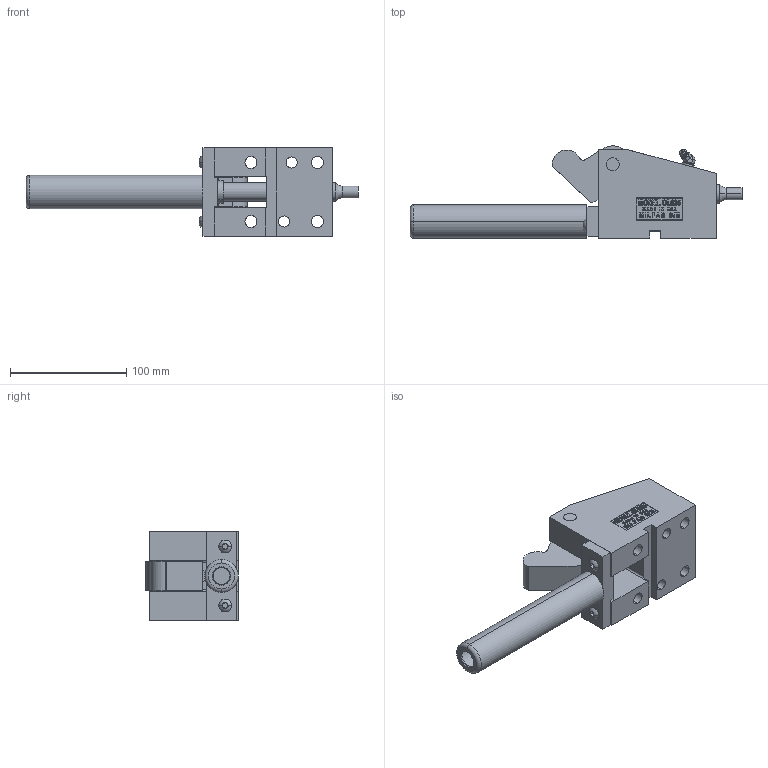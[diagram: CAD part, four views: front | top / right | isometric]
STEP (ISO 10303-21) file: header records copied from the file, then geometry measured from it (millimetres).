
FILE_DESCRIPTION (( 'STEP AP214' ), '1' );
FILE_NAME ('OL62545-O.STEP', '2014-01-05T20:43:26', ( 'user' ), ( '' ), 'SwSTEP 2.0', 'SolidWorks 2009', '' );
FILE_SCHEMA (( 'AUTOMOTIVE_DESIGN' ));
Length unit declared in the file: inch
Products named in the file (10): OL62545-O; O-625-POINT; OL625-CAGE; 625-OFFSET TRIGGER; GREASE ZERK; OL625-PUNCH; 625 PIVOT PIN; 1-4 SCREW; 625-O-STRAP; OL625-BODY
Assembly tree (10 placements, depth 2):
  OL62545-O
    1-4 SCREW  x2
    625-OFFSET TRIGGER
    OL625-PUNCH
    625-O-STRAP
    OL625-CAGE
    O-625-POINT
    OL625-BODY
    625 PIVOT PIN
    GREASE ZERK
Bounding box: 285.62 x 79.37 x 76.2 mm (x, y, z)
Volume: 487886.2 mm3; surface area: 115949.9 mm2
Topology: 10 solids, 10 shells, 593 faces, 1537 edges, 1013 vertices
Faces by surface type: plane 342, bspline 101, cylinder 100, cone 24, torus 22, sphere 4
Entity records: 23781 total; most frequent: CARTESIAN_POINT 9960, ORIENTED_EDGE 2990, DIRECTION 2387, EDGE_CURVE 1495, VERTEX_POINT 987, VECTOR 965, LINE 965, AXIS2_PLACEMENT_3D 711
